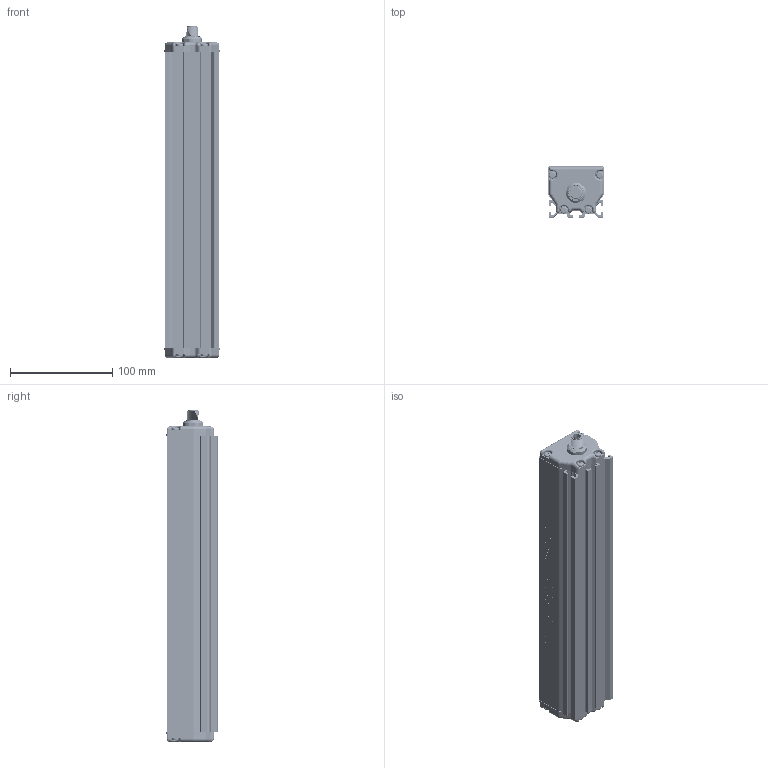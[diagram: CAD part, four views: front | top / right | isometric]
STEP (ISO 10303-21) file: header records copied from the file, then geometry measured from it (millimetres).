
FILE_DESCRIPTION (( 'STEP AP214' ), '1' );
FILE_NAME ('LHI ASY.STEP', '2022-10-04T18:45:20', ( '' ), ( '' ), 'SwSTEP 2.0', 'SolidWorks 2022', '' );
FILE_SCHEMA (( 'AUTOMOTIVE_DESIGN' ));
Length unit declared in the file: millimetre
Products named in the file (26): LTF EXT0285; SPLICE HEATSHRINK; GSKT0021 LTF END CAP GASKET; (6-32 - 1_2 THREAD FORMING) (SC0136) 94209A520_THREAD-FORMING SCREW FOR SOFT METAL_94209A520; GRAY WIRE; END CAP ASY; JST-xH 7pin Female; LHI LED BOARD ASY; xcadmodel-R1132101416354-00000245_Male - Long; BLUE WIRE; LHI LED BOARD; CBL0080; LTF CLEAR LENS COVER_290; HSG0205 LSR END CAP CONN; BLACK WIRE; LHI DRIVER BOARD ASY; TINA2-SERIES_TINA2-SERIES; LHI ASY; LHI DRIVER BOARD; HSG0204 LSR END CAP NON-CONN; BROWN WIRE; BLUE SHORT WIRE; BROWN SHORT WIRE; M12 Nut; WHITE WIRE; END CAP CONN ASY
Assembly tree (67 placements, depth 4):
  LHI ASY
    LTF EXT0285
    LHI DRIVER BOARD ASY
      LHI DRIVER BOARD
    LHI LED BOARD ASY
      LHI LED BOARD
      TINA2-SERIES_TINA2-SERIES  x32
    END CAP CONN ASY
      HSG0205 LSR END CAP CONN
      CBL0080
        GRAY WIRE
        BLACK WIRE
        WHITE WIRE
        JST-xH 7pin Female
        xcadmodel-R1132101416354-00000245_Male - Long
        BLUE SHORT WIRE
        BROWN SHORT WIRE
        BLUE WIRE  x2
        BROWN WIRE  x2
        SPLICE HEATSHRINK  x2
      GSKT0021 LTF END CAP GASKET
    END CAP ASY
      HSG0204 LSR END CAP NON-CONN
      GSKT0021 LTF END CAP GASKET
    (6-32 - 1_2 THREAD FORMING) (SC0136) 94209A520_THREAD-FORMING SCREW FOR SOFT METAL_94209A520  x8
    LTF CLEAR LENS COVER_290
    M12 Nut
Bounding box: 54.2 x 50 x 325.2 mm (x, y, z)
Volume: 344137.9 mm3; surface area: 313643.4 mm2
Topology: 126 solids, 127 shells, 11953 faces, 32444 edges, 20804 vertices
Faces by surface type: cylinder 3619, plane 3314, bspline 3314, cone 1632, torus 66, sphere 8
Entity records: 125642 total; most frequent: CARTESIAN_POINT 55601, ORIENTED_EDGE 13808, DIRECTION 11423, EDGE_CURVE 6904, VERTEX_POINT 4531, AXIS2_PLACEMENT_3D 3944, LINE 3535, VECTOR 3535
